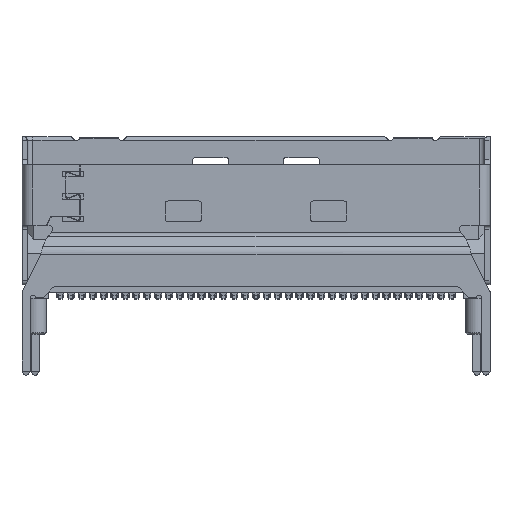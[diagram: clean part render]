
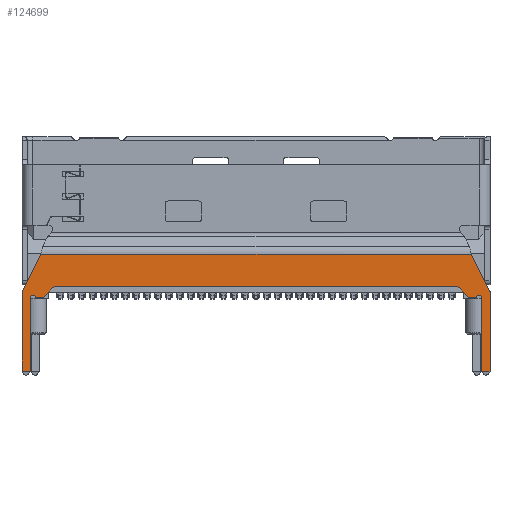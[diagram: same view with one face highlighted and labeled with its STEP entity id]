
A CAD part, top view. The second image highlights one B-rep face of the part: STEP entity #124699.
In plain terms, the highlighted planar face has unit normal (0, 0, 1).
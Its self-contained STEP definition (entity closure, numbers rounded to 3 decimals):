
#2596=DIRECTION('',(-1.,0.,0.));
#2597=VECTOR('',#2596,0.45);
#2598=CARTESIAN_POINT('',(-12.45,-5.68,2.3));
#2599=LINE('',#2598,#2597);
#2634=DIRECTION('',(0.,-1.,0.));
#2635=VECTOR('',#2634,4.34);
#2636=CARTESIAN_POINT('',(-12.9,-1.34,2.3));
#2637=LINE('',#2636,#2635);
#27380=DIRECTION('',(-1.,0.,0.));
#27381=VECTOR('',#27380,23.723);
#27382=CARTESIAN_POINT('',(11.861,0.771,
2.3));
#27383=LINE('',#27382,#27381);
#27395=DIRECTION('',(1.,0.,0.));
#27396=VECTOR('',#27395,0.45);
#27397=CARTESIAN_POINT('',(12.45,-5.68,2.3));
#27398=LINE('',#27397,#27396);
#27399=DIRECTION('',(0.,-1.,0.));
#27400=VECTOR('',#27399,4.045);
#27401=CARTESIAN_POINT('',(12.45,-1.635,2.3));
#27402=LINE('',#27401,#27400);
#27403=CARTESIAN_POINT('',(12.3,-1.635,2.3));
#27404=DIRECTION('',(0.,0.,-1.));
#27405=DIRECTION('',(-0.893,0.45,0.));
#27406=AXIS2_PLACEMENT_3D('',#27403,#27404,#27405);
#27408=CARTESIAN_POINT('',(12.032,-1.5,2.3));
#27409=DIRECTION('',(0.,0.,1.));
#27410=DIRECTION('',(0.,-1.,0.));
#27411=AXIS2_PLACEMENT_3D('',#27408,#27409,#27410);
#27413=DIRECTION('',(1.,0.,0.));
#27414=VECTOR('',#27413,0.166);
#27415=CARTESIAN_POINT('',(11.866,-1.65,2.3));
#27416=LINE('',#27415,#27414);
#27417=CARTESIAN_POINT('',(11.866,-1.35,2.3));
#27418=DIRECTION('',(0.,0.,1.));
#27419=DIRECTION('',(-0.719,-0.695,0.));
#27420=AXIS2_PLACEMENT_3D('',#27417,#27418,#27419);
#27422=DIRECTION('',(0.695,-0.719,0.));
#27423=VECTOR('',#27422,0.649);
#27424=CARTESIAN_POINT('',(11.199,-1.092,2.3));
#27425=LINE('',#27424,#27423);
#27426=CARTESIAN_POINT('',(10.983,-1.3,2.3));
#27427=DIRECTION('',(0.,0.,-1.));
#27428=DIRECTION('',(0.,1.,0.));
#27429=AXIS2_PLACEMENT_3D('',#27426,#27427,#27428);
#27431=CARTESIAN_POINT('',(-10.983,-1.3,2.3));
#27432=DIRECTION('',(0.,0.,-1.));
#27433=DIRECTION('',(-0.719,0.695,0.));
#27434=AXIS2_PLACEMENT_3D('',#27431,#27432,#27433);
#27436=DIRECTION('',(0.695,0.719,0.));
#27437=VECTOR('',#27436,0.649);
#27438=CARTESIAN_POINT('',(-11.65,-1.558,2.3));
#27439=LINE('',#27438,#27437);
#27440=CARTESIAN_POINT('',(-11.866,-1.35,2.3));
#27441=DIRECTION('',(0.,0.,1.));
#27442=DIRECTION('',(0.,-1.,0.));
#27443=AXIS2_PLACEMENT_3D('',#27440,#27441,#27442);
#27445=CARTESIAN_POINT('',(-12.032,-1.5,2.3));
#27446=DIRECTION('',(0.,0.,1.));
#27447=DIRECTION('',(-0.893,-0.45,0.));
#27448=AXIS2_PLACEMENT_3D('',#27445,#27446,#27447);
#27450=CARTESIAN_POINT('',(-12.3,-1.635,2.3));
#27451=DIRECTION('',(0.,0.,-1.));
#27452=DIRECTION('',(-1.,0.,0.));
#27453=AXIS2_PLACEMENT_3D('',#27450,#27451,#27452);
#27455=DIRECTION('',(-0.442,-0.897,0.));
#27456=VECTOR('',#27455,2.353);
#27457=CARTESIAN_POINT('',(-11.861,0.771,
2.3));
#27458=LINE('',#27457,#27456);
#27459=DIRECTION('',(-0.442,0.897,0.));
#27460=VECTOR('',#27459,2.353);
#27461=CARTESIAN_POINT('',(12.9,-1.34,2.3));
#27462=LINE('',#27461,#27460);
#27484=DIRECTION('',(1.,0.,0.));
#27485=VECTOR('',#27484,21.967);
#27486=CARTESIAN_POINT('',(-10.983,-1.,2.3));
#27487=LINE('',#27486,#27485);
#27556=DIRECTION('',(1.,0.,0.));
#27557=VECTOR('',#27556,0.166);
#27558=CARTESIAN_POINT('',(-12.032,-1.65,2.3));
#27559=LINE('',#27558,#27557);
#27560=DIRECTION('',(0.,-1.,0.));
#27561=VECTOR('',#27560,4.045);
#27562=CARTESIAN_POINT('',(-12.45,-1.635,2.3));
#27563=LINE('',#27562,#27561);
#27576=DIRECTION('',(0.,-1.,0.));
#27577=VECTOR('',#27576,4.34);
#27578=CARTESIAN_POINT('',(12.9,-1.34,2.3));
#27579=LINE('',#27578,#27577);
#56853=CARTESIAN_POINT('',(12.9,-5.68,2.3));
#56854=VERTEX_POINT('',#56853);
#56858=CARTESIAN_POINT('',(12.45,-5.68,2.3));
#56859=VERTEX_POINT('',#56858);
#56864=CARTESIAN_POINT('',(-12.45,-5.68,2.3));
#56865=VERTEX_POINT('',#56864);
#56878=CARTESIAN_POINT('',(-12.9,-5.68,2.3));
#56879=VERTEX_POINT('',#56878);
#57383=CARTESIAN_POINT('',(11.861,0.771,
2.3));
#57385=VERTEX_POINT('',#57383);
#57407=CARTESIAN_POINT('',(12.45,-1.635,2.3));
#57408=VERTEX_POINT('',#57407);
#57409=CARTESIAN_POINT('',(12.166,-1.567,2.3));
#57411=VERTEX_POINT('',#57409);
#57414=CARTESIAN_POINT('',(12.032,-1.65,2.3));
#57416=VERTEX_POINT('',#57414);
#57419=CARTESIAN_POINT('',(11.866,-1.65,2.3));
#57420=VERTEX_POINT('',#57419);
#57423=CARTESIAN_POINT('',(11.65,-1.558,2.3));
#57424=VERTEX_POINT('',#57423);
#57427=CARTESIAN_POINT('',(11.199,-1.092,2.3));
#57428=VERTEX_POINT('',#57427);
#57447=CARTESIAN_POINT('',(-11.65,-1.558,2.3));
#57448=VERTEX_POINT('',#57447);
#57449=CARTESIAN_POINT('',(-11.866,-1.65,2.3));
#57450=VERTEX_POINT('',#57449);
#57451=CARTESIAN_POINT('',(-11.199,-1.092,2.3));
#57452=VERTEX_POINT('',#57451);
#57453=CARTESIAN_POINT('',(10.983,-1.,2.3));
#57454=VERTEX_POINT('',#57453);
#57455=CARTESIAN_POINT('',(-10.983,-1.,2.3));
#57456=VERTEX_POINT('',#57455);
#57457=CARTESIAN_POINT('',(-12.032,-1.65,2.3));
#57458=VERTEX_POINT('',#57457);
#57459=CARTESIAN_POINT('',(-12.166,-1.567,2.3));
#57460=VERTEX_POINT('',#57459);
#57461=CARTESIAN_POINT('',(-12.45,-1.635,2.3));
#57462=VERTEX_POINT('',#57461);
#57463=CARTESIAN_POINT('',(-12.9,-1.34,2.3));
#57464=VERTEX_POINT('',#57463);
#57465=CARTESIAN_POINT('',(-11.861,0.771,
2.3));
#57466=VERTEX_POINT('',#57465);
#57467=CARTESIAN_POINT('',(12.9,-1.34,2.3));
#57468=VERTEX_POINT('',#57467);
#124659=CARTESIAN_POINT('',(0.,-2.455,2.3));
#124660=DIRECTION('',(0.,0.,1.));
#124661=DIRECTION('',(0.,-1.,0.));
#124662=AXIS2_PLACEMENT_3D('',#124659,#124660,#124661);
#124663=PLANE('',#124662);
#124664=ORIENTED_EDGE('',*,*,#73942,.F.);
#124665=ORIENTED_EDGE('',*,*,#74024,.F.);
#124666=ORIENTED_EDGE('',*,*,#74043,.F.);
#124667=ORIENTED_EDGE('',*,*,#74066,.F.);
#124668=ORIENTED_EDGE('',*,*,#74090,.F.);
#124669=ORIENTED_EDGE('',*,*,#74153,.F.);
#124670=ORIENTED_EDGE('',*,*,#74175,.F.);
#124672=ORIENTED_EDGE('',*,*,#124671,.F.);
#124674=ORIENTED_EDGE('',*,*,#124673,.F.);
#124676=ORIENTED_EDGE('',*,*,#124675,.F.);
#124678=ORIENTED_EDGE('',*,*,#124677,.F.);
#124680=ORIENTED_EDGE('',*,*,#124679,.F.);
#124682=ORIENTED_EDGE('',*,*,#124681,.F.);
#124684=ORIENTED_EDGE('',*,*,#124683,.F.);
#124686=ORIENTED_EDGE('',*,*,#124685,.F.);
#124688=ORIENTED_EDGE('',*,*,#124687,.T.);
#124689=ORIENTED_EDGE('',*,*,#74410,.T.);
#124690=ORIENTED_EDGE('',*,*,#74492,.F.);
#124691=ORIENTED_EDGE('',*,*,#74513,.F.);
#124692=ORIENTED_EDGE('',*,*,#124645,.F.);
#124694=ORIENTED_EDGE('',*,*,#124693,.F.);
#124696=ORIENTED_EDGE('',*,*,#124695,.T.);
#124697=EDGE_LOOP('',(#124664,#124665,#124666,#124667,#124668,#124669,#124670,
#124672,#124674,#124676,#124678,#124680,#124682,#124684,#124686,#124688,#124689,
#124690,#124691,#124692,#124694,#124696));
#124698=FACE_OUTER_BOUND('',#124697,.F.);
#27407=CIRCLE('',#27406,0.15);
#27412=CIRCLE('',#27411,0.15);
#27421=CIRCLE('',#27420,0.3);
#27430=CIRCLE('',#27429,0.3);
#27435=CIRCLE('',#27434,0.3);
#27444=CIRCLE('',#27443,0.3);
#27449=CIRCLE('',#27448,0.15);
#27454=CIRCLE('',#27453,0.15);
#73942=EDGE_CURVE('',#56859,#56854,#27398,.T.);
#74024=EDGE_CURVE('',#57408,#56859,#27402,.T.);
#74043=EDGE_CURVE('',#57411,#57408,#27407,.T.);
#74066=EDGE_CURVE('',#57416,#57411,#27412,.T.);
#74090=EDGE_CURVE('',#57420,#57416,#27416,.T.);
#74153=EDGE_CURVE('',#57424,#57420,#27421,.T.);
#74175=EDGE_CURVE('',#57428,#57424,#27425,.T.);
#74410=EDGE_CURVE('',#56865,#56879,#2599,.T.);
#74492=EDGE_CURVE('',#57464,#56879,#2637,.T.);
#74513=EDGE_CURVE('',#57466,#57464,#27458,.T.);
#124645=EDGE_CURVE('',#57385,#57466,#27383,.T.);
#124671=EDGE_CURVE('',#57454,#57428,#27430,.T.);
#124673=EDGE_CURVE('',#57456,#57454,#27487,.T.);
#124675=EDGE_CURVE('',#57452,#57456,#27435,.T.);
#124677=EDGE_CURVE('',#57448,#57452,#27439,.T.);
#124679=EDGE_CURVE('',#57450,#57448,#27444,.T.);
#124681=EDGE_CURVE('',#57458,#57450,#27559,.T.);
#124683=EDGE_CURVE('',#57460,#57458,#27449,.T.);
#124685=EDGE_CURVE('',#57462,#57460,#27454,.T.);
#124687=EDGE_CURVE('',#57462,#56865,#27563,.T.);
#124693=EDGE_CURVE('',#57468,#57385,#27462,.T.);
#124695=EDGE_CURVE('',#57468,#56854,#27579,.T.);
#124699=ADVANCED_FACE('',(#124698),#124663,.T.);
